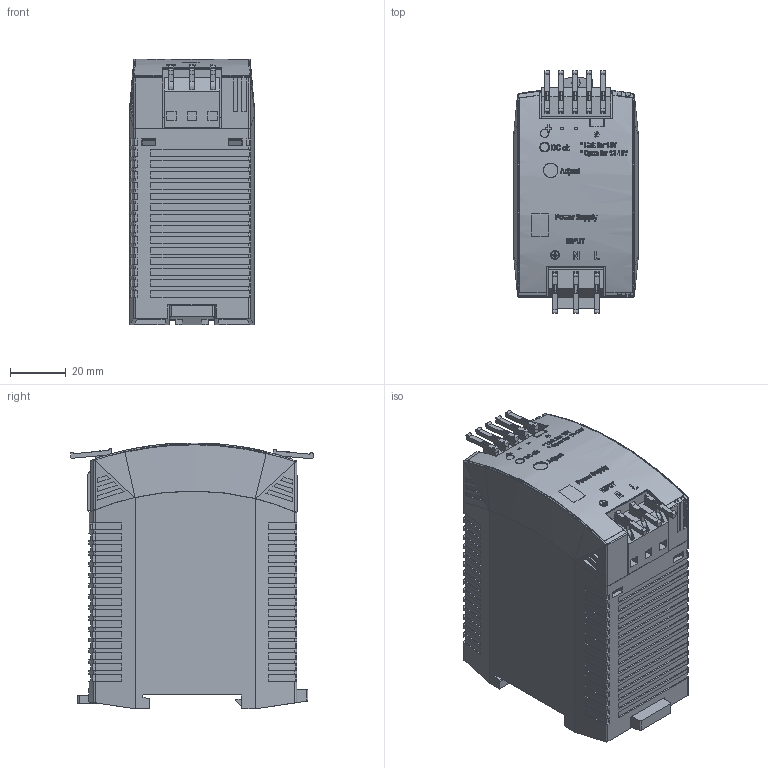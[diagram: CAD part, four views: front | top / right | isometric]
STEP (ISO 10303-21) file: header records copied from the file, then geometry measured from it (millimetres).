
FILE_DESCRIPTION((''),'2;1');
FILE_NAME('C:\Users\rahns\Desktop\Sylvia Info´s\Dateien für Vertrieb\ML50\102\md3_ml50_102.stp','2012-06-15T12:23:41',('rahns'),(''),'Autodesk Inventor 2009','Autodesk Inventor 2009','');
FILE_SCHEMA(('AUTOMOTIVE_DESIGN { 1 0 10303 214 1 1 1 1 }'));
Length unit declared in the file: millimetre
Products named in the file (7): 327; HOUSING BODY 322; HOUSING COVER 322; SLIDER 322; TERMINAL 3P; TERMINAL 5P; FRONTFOIL 327
Assembly tree (6 placements, depth 2):
  327
    HOUSING BODY 322
    HOUSING COVER 322
    SLIDER 322
    TERMINAL 3P
    TERMINAL 5P
    FRONTFOIL 327
Bounding box: 45 x 87.49 x 95.74 mm (x, y, z)
Volume: 291921.7 mm3; surface area: 53003.9 mm2
Topology: 11 solids, 11 shells, 1978 faces, 5406 edges, 3593 vertices
Faces by surface type: plane 1289, bspline 396, cylinder 286, cone 7
Full cylindrical faces by diameter (mm): 1.2 x8, 3 x2, 5.2 x1
Entity records: 176761 total; most frequent: CARTESIAN_POINT 128636, ORIENTED_EDGE 10790, DIRECTION 8121, EDGE_CURVE 5395, VERTEX_POINT 3593, VECTOR 3545, LINE 3545, AXIS2_PLACEMENT_3D 2288
